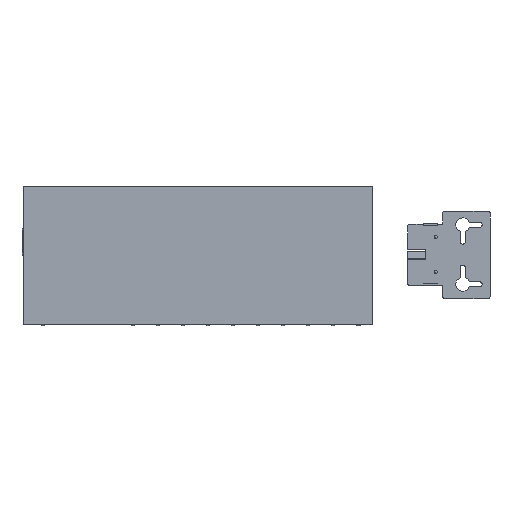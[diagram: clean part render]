
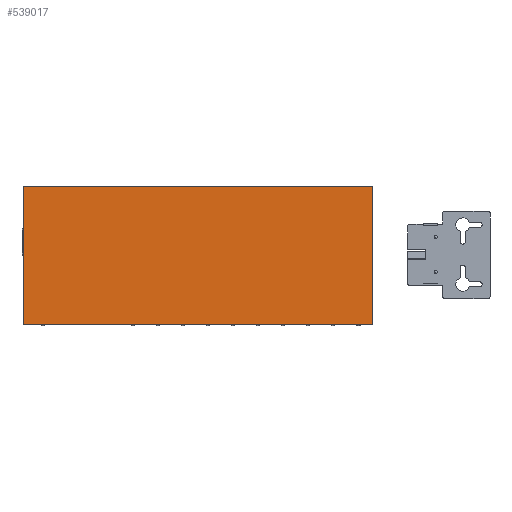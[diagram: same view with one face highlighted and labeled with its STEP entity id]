
A CAD part, top view. The second image highlights one B-rep face of the part: STEP entity #539017.
In plain terms, the highlighted planar face has unit normal (0, 0, 1).
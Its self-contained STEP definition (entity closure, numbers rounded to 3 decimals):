
#343 = PLANE('',#344);
#344 = AXIS2_PLACEMENT_3D('',#345,#346,#347);
#345 = CARTESIAN_POINT('',(200.,39.536,15.286));
#346 = DIRECTION('',(1.,0.,0.));
#347 = DIRECTION('',(0.,0.,1.));
#16040 = PLANE('',#16041);
#16041 = AXIS2_PLACEMENT_3D('',#16042,#16043,#16044);
#16042 = CARTESIAN_POINT('',(0.,39.536,15.286));
#16043 = DIRECTION('',(-1.,-0.,-0.));
#16044 = DIRECTION('',(0.,0.,-1.));
#16068 = PLANE('',#16069);
#16069 = AXIS2_PLACEMENT_3D('',#16070,#16071,#16072);
#16070 = CARTESIAN_POINT('',(0.,0.,0.));
#16071 = DIRECTION('',(0.,1.,0.));
#16072 = DIRECTION('',(0.,0.,1.));
#17688 = VERTEX_POINT('',#17689);
#17689 = CARTESIAN_POINT('',(0.,0.,30.6));
#17710 = EDGE_CURVE('',#17688,#17711,#17713,.T.);
#17711 = VERTEX_POINT('',#17712);
#17712 = CARTESIAN_POINT('',(200.,0.,30.6));
#17713 = SURFACE_CURVE('',#17714,(#17718,#17725),.PCURVE_S1.);
#17714 = LINE('',#17715,#17716);
#17715 = CARTESIAN_POINT('',(0.,0.,30.6));
#17716 = VECTOR('',#17717,1.);
#17717 = DIRECTION('',(1.,0.,0.));
#17718 = PCURVE('',#16068,#17719);
#17719 = DEFINITIONAL_REPRESENTATION('',(#17720),#17724);
#17720 = LINE('',#17721,#17722);
#17721 = CARTESIAN_POINT('',(30.6,0.));
#17722 = VECTOR('',#17723,1.);
#17723 = DIRECTION('',(0.,1.));
#17724 = ( GEOMETRIC_REPRESENTATION_CONTEXT(2) 
PARAMETRIC_REPRESENTATION_CONTEXT() REPRESENTATION_CONTEXT('2D SPACE',''
  ) );
#17725 = PCURVE('',#17726,#17731);
#17726 = PLANE('',#17727);
#17727 = AXIS2_PLACEMENT_3D('',#17728,#17729,#17730);
#17728 = CARTESIAN_POINT('',(100.,39.5,30.6));
#17729 = DIRECTION('',(0.,0.,1.));
#17730 = DIRECTION('',(0.,1.,0.));
#17731 = DEFINITIONAL_REPRESENTATION('',(#17732),#17736);
#17732 = LINE('',#17733,#17734);
#17733 = CARTESIAN_POINT('',(-39.5,100.));
#17734 = VECTOR('',#17735,1.);
#17735 = DIRECTION('',(0.,-1.));
#17736 = ( GEOMETRIC_REPRESENTATION_CONTEXT(2) 
PARAMETRIC_REPRESENTATION_CONTEXT() REPRESENTATION_CONTEXT('2D SPACE',''
  ) );
#21238 = PLANE('',#21239);
#21239 = AXIS2_PLACEMENT_3D('',#21240,#21241,#21242);
#21240 = CARTESIAN_POINT('',(0.,79.,-0.1));
#21241 = DIRECTION('',(0.,1.,0.));
#21242 = DIRECTION('',(0.,0.,1.));
#30628 = VERTEX_POINT('',#30629);
#30629 = CARTESIAN_POINT('',(0.,79.,30.6));
#30650 = EDGE_CURVE('',#30628,#30651,#30653,.T.);
#30651 = VERTEX_POINT('',#30652);
#30652 = CARTESIAN_POINT('',(200.,79.,30.6));
#30653 = SURFACE_CURVE('',#30654,(#30658,#30665),.PCURVE_S1.);
#30654 = LINE('',#30655,#30656);
#30655 = CARTESIAN_POINT('',(0.,79.,30.6));
#30656 = VECTOR('',#30657,1.);
#30657 = DIRECTION('',(1.,0.,0.));
#30658 = PCURVE('',#21238,#30659);
#30659 = DEFINITIONAL_REPRESENTATION('',(#30660),#30664);
#30660 = LINE('',#30661,#30662);
#30661 = CARTESIAN_POINT('',(30.7,0.));
#30662 = VECTOR('',#30663,1.);
#30663 = DIRECTION('',(0.,1.));
#30664 = ( GEOMETRIC_REPRESENTATION_CONTEXT(2) 
PARAMETRIC_REPRESENTATION_CONTEXT() REPRESENTATION_CONTEXT('2D SPACE',''
  ) );
#30665 = PCURVE('',#17726,#30666);
#30666 = DEFINITIONAL_REPRESENTATION('',(#30667),#30671);
#30667 = LINE('',#30668,#30669);
#30668 = CARTESIAN_POINT('',(39.5,100.));
#30669 = VECTOR('',#30670,1.);
#30670 = DIRECTION('',(0.,-1.));
#30671 = ( GEOMETRIC_REPRESENTATION_CONTEXT(2) 
PARAMETRIC_REPRESENTATION_CONTEXT() REPRESENTATION_CONTEXT('2D SPACE',''
  ) );
#538855 = EDGE_CURVE('',#17711,#30651,#538856,.T.);
#538856 = SURFACE_CURVE('',#538857,(#538861,#538868),.PCURVE_S1.);
#538857 = LINE('',#538858,#538859);
#538858 = CARTESIAN_POINT('',(200.,1.,30.6));
#538859 = VECTOR('',#538860,1.);
#538860 = DIRECTION('',(0.,1.,0.));
#538861 = PCURVE('',#343,#538862);
#538862 = DEFINITIONAL_REPRESENTATION('',(#538863),#538867);
#538863 = LINE('',#538864,#538865);
#538864 = CARTESIAN_POINT('',(15.314,38.536));
#538865 = VECTOR('',#538866,1.);
#538866 = DIRECTION('',(0.,-1.));
#538867 = ( GEOMETRIC_REPRESENTATION_CONTEXT(2) 
PARAMETRIC_REPRESENTATION_CONTEXT() REPRESENTATION_CONTEXT('2D SPACE',''
  ) );
#538868 = PCURVE('',#17726,#538869);
#538869 = DEFINITIONAL_REPRESENTATION('',(#538870),#538874);
#538870 = LINE('',#538871,#538872);
#538871 = CARTESIAN_POINT('',(-38.5,-100.));
#538872 = VECTOR('',#538873,1.);
#538873 = DIRECTION('',(1.,0.));
#538874 = ( GEOMETRIC_REPRESENTATION_CONTEXT(2) 
PARAMETRIC_REPRESENTATION_CONTEXT() REPRESENTATION_CONTEXT('2D SPACE',''
  ) );
#538945 = EDGE_CURVE('',#17688,#30628,#538946,.T.);
#538946 = SURFACE_CURVE('',#538947,(#538951,#538958),.PCURVE_S1.);
#538947 = LINE('',#538948,#538949);
#538948 = CARTESIAN_POINT('',(0.,0.,30.6));
#538949 = VECTOR('',#538950,1.);
#538950 = DIRECTION('',(0.,1.,0.));
#538951 = PCURVE('',#16040,#538952);
#538952 = DEFINITIONAL_REPRESENTATION('',(#538953),#538957);
#538953 = LINE('',#538954,#538955);
#538954 = CARTESIAN_POINT('',(-15.314,39.536));
#538955 = VECTOR('',#538956,1.);
#538956 = DIRECTION('',(0.,-1.));
#538957 = ( GEOMETRIC_REPRESENTATION_CONTEXT(2) 
PARAMETRIC_REPRESENTATION_CONTEXT() REPRESENTATION_CONTEXT('2D SPACE',''
  ) );
#538958 = PCURVE('',#17726,#538959);
#538959 = DEFINITIONAL_REPRESENTATION('',(#538960),#538964);
#538960 = LINE('',#538961,#538962);
#538961 = CARTESIAN_POINT('',(-39.5,100.));
#538962 = VECTOR('',#538963,1.);
#538963 = DIRECTION('',(1.,0.));
#538964 = ( GEOMETRIC_REPRESENTATION_CONTEXT(2) 
PARAMETRIC_REPRESENTATION_CONTEXT() REPRESENTATION_CONTEXT('2D SPACE',''
  ) );
#539017 = ADVANCED_FACE('',(#539018),#17726,.T.);
#539018 = FACE_BOUND('',#539019,.T.);
#539019 = EDGE_LOOP('',(#539020,#539021,#539022,#539023));
#539020 = ORIENTED_EDGE('',*,*,#538855,.T.);
#539021 = ORIENTED_EDGE('',*,*,#30650,.F.);
#539022 = ORIENTED_EDGE('',*,*,#538945,.F.);
#539023 = ORIENTED_EDGE('',*,*,#17710,.T.);
